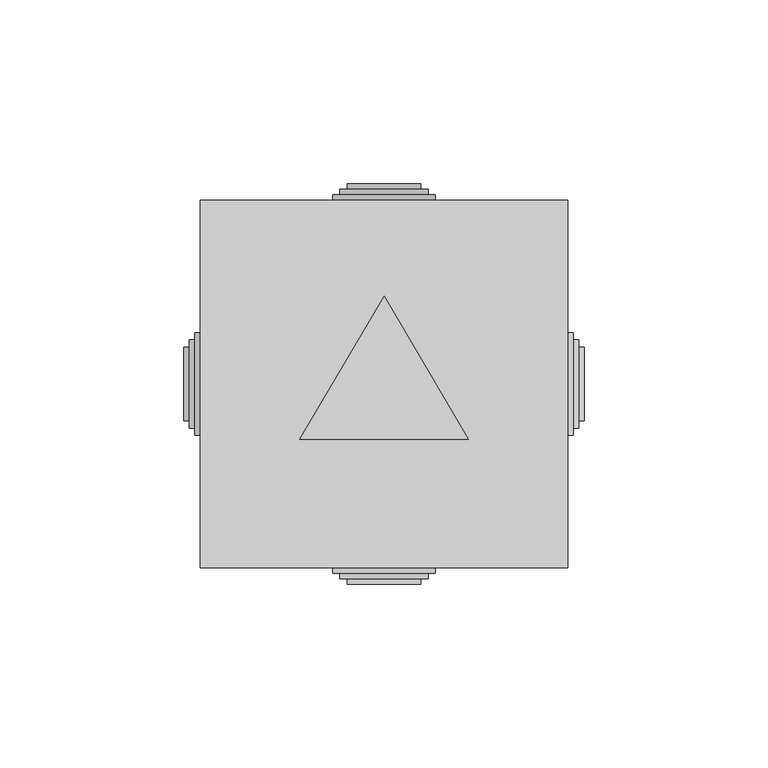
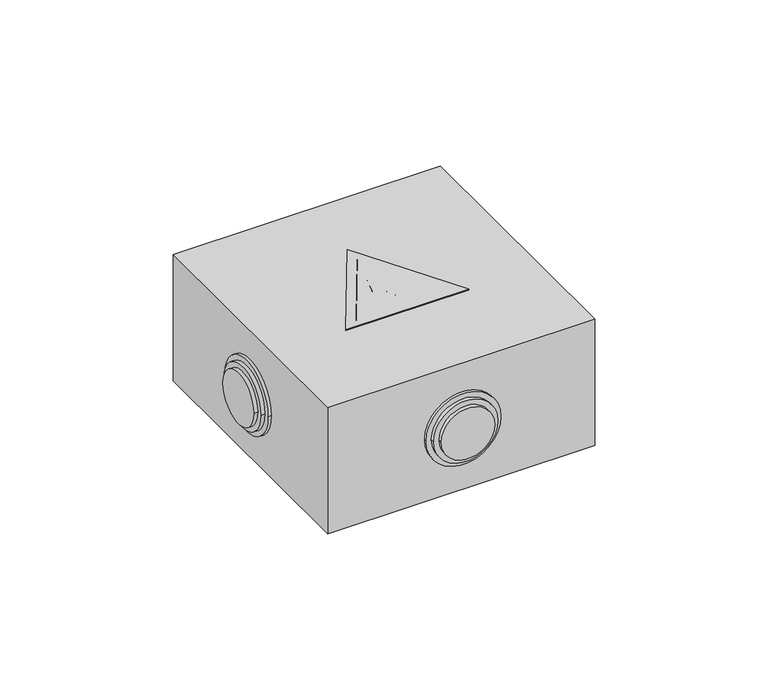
"""IFC4 building model written with IfcOpenShell, lengths in millimetres: proxy geometry, mS_EE_НГ_транзит : КО_IP44_ОУ_IEK_КМ41233_6Вв."""

import ifcopenshell
import ifcopenshell.guid

model = None  # the IFC model being written
_history = None  # IfcOwnerHistory: only IFC2X3 demands one
_inside = {}  # id of a spatial element -> (the spatial element, [elements in it])
_under = {}  # id of a project, library or spatial element -> (it, [spatial elements below it])
_declared = {}  # id of a project -> (the project, [libraries it declares])
_typed = {}  # id of a type object -> (the type object, [elements of that type])
_made_of = {}  # id of a material, layer set ... -> (it, [elements and type objects made of it])


def new_model(schema):
    """Start an empty IFC model of exactly this schema.

    Asked for "IFC4X3", IfcOpenShell would pick the latest addendum, in which some entities
    have other attributes; the version numbers below select the first issue.
    IFC2X3 requires an IfcOwnerHistory on every rooted entity: one is made here for all.
    """
    global model, _history
    if schema == "IFC4X3":
        model = ifcopenshell.file(schema_version=(4, 3, 0, 0))
    else:
        model = ifcopenshell.file(schema=schema)
    _inside.clear()
    _under.clear()
    _declared.clear()
    _typed.clear()
    _made_of.clear()
    _history = None
    if model.schema == "IFC2X3":
        org = make("IfcOrganization", Name="unknown")
        user = make(
            "IfcPersonAndOrganization",
            ThePerson=make("IfcPerson", FamilyName="unknown"),
            TheOrganization=org,
        )
        app = make(
            "IfcApplication",
            ApplicationDeveloper=org,
            Version="unknown",
            ApplicationFullName="unknown",
            ApplicationIdentifier="unknown",
        )
        _history = make(
            "IfcOwnerHistory",
            OwningUser=user,
            OwningApplication=app,
            ChangeAction="ADDED",
            CreationDate=0,
        )
    return model


def make(cls, **values):
    """One entity of the class cls with the attributes given. An attribute that is None is left unset."""
    return model.create_entity(
        cls, **{name: value for name, value in values.items() if value is not None}
    )


def rooted(cls, **values):
    """An entity with a GlobalId (a new one), such as an element, a storey or a relation."""
    return make(cls, GlobalId=ifcopenshell.guid.new(), OwnerHistory=_history, **values)


def si_unit(unit_type, name, prefix=None):
    """IfcSIUnit, for example si_unit("LENGTHUNIT", "METRE", prefix="MILLI")."""
    return make("IfcSIUnit", UnitType=unit_type, Prefix=prefix, Name=name)


def assignment(units):
    """IfcUnitAssignment: the units of a project."""
    return None if units is None else make("IfcUnitAssignment", Units=units)


def point(xyz):
    """IfcCartesianPoint."""
    return None if xyz is None else make("IfcCartesianPoint", Coordinates=xyz)


def direction(xyz):
    """IfcDirection."""
    return None if xyz is None else make("IfcDirection", DirectionRatios=xyz)


def frame(location, z_axis=None, x_axis=None):
    """IfcAxis2Placement3D, a coordinate frame: its origin and axes. An axis left out is left unset."""
    return make(
        "IfcAxis2Placement3D",
        Location=point(location),
        Axis=direction(z_axis),
        RefDirection=direction(x_axis),
    )


def frame_2d(location, x_axis=None):
    """IfcAxis2Placement2D, a coordinate frame in the plane: its origin and x axis."""
    return make(
        "IfcAxis2Placement2D", Location=point(location), RefDirection=direction(x_axis)
    )


def origin():
    """The frame at (0, 0, 0) with its axes left unset."""
    return frame((0.0, 0.0, 0.0))


def place(relative_to, where):
    """IfcLocalPlacement: puts the frame where relative to a parent placement (None: the world)."""
    return make(
        "IfcLocalPlacement", PlacementRelTo=relative_to, RelativePlacement=where
    )


def context(
    kind, dimensions, precision=None, world=None, true_north=None, identifier=None
):
    """IfcGeometricRepresentationContext, for example the 3D "Model" context."""
    return make(
        "IfcGeometricRepresentationContext",
        ContextIdentifier=identifier,
        ContextType=kind,
        CoordinateSpaceDimension=dimensions,
        Precision=precision,
        WorldCoordinateSystem=world,
        TrueNorth=true_north,
    )


def project(units=None, contexts=None):
    """IfcProject with its units and contexts."""
    return rooted(
        "IfcProject",
        Name="project",
        RepresentationContexts=contexts,
        UnitsInContext=assignment(units),
    )


def spatial(cls, under=None, at=None, **own):
    """A site, building, storey or space (cls), placed at a placement, below another one or the project."""
    s = rooted(cls, ObjectPlacement=at, **own)
    if under is not None:
        _under.setdefault(under.id(), (under, []))[1].append(s)
    return s


def polyline(points):
    """IfcPolyline through the points."""
    return make("IfcPolyline", Points=[point(p) for p in points])


def circle_curve(where, radius):
    """IfcCircle in the frame where."""
    return make("IfcCircle", Position=where, Radius=radius)


def trimmed(basis, trim1, trim2, sense, master):
    """IfcTrimmedCurve: the piece of a basis curve between two trims."""
    return make(
        "IfcTrimmedCurve",
        BasisCurve=basis,
        Trim1=trim1,
        Trim2=trim2,
        SenseAgreement=sense,
        MasterRepresentation=master,
    )


def segment(curve, same_sense, transition):
    """IfcCompositeCurveSegment."""
    return make(
        "IfcCompositeCurveSegment",
        Transition=transition,
        SameSense=same_sense,
        ParentCurve=curve,
    )


def composite_curve(segments, self_intersect=None):
    """IfcCompositeCurve: segments joined end to end."""
    return make("IfcCompositeCurve", Segments=segments, SelfIntersect=self_intersect)


def outline(outer, holes=None, kind="AREA"):
    """IfcArbitraryClosedProfileDef: a profile drawn as a closed curve; with holes, ...WithVoids."""
    if holes is None:
        return make("IfcArbitraryClosedProfileDef", ProfileType=kind, OuterCurve=outer)
    return make(
        "IfcArbitraryProfileDefWithVoids",
        ProfileType=kind,
        OuterCurve=outer,
        InnerCurves=holes,
    )


def extrude(swept, where, along, depth):
    """IfcExtrudedAreaSolid: the profile swept, set in the frame where, extruded along a direction by depth."""
    return make(
        "IfcExtrudedAreaSolid",
        SweptArea=swept,
        Position=where,
        ExtrudedDirection=direction(along),
        Depth=depth,
    )


def shape(context_of_items, identifier, shape_type, items):
    """IfcShapeRepresentation: the items that make up one representation, for example the "Body"."""
    return make(
        "IfcShapeRepresentation",
        ContextOfItems=context_of_items,
        RepresentationIdentifier=identifier,
        RepresentationType=shape_type,
        Items=items,
    )


def source(mapping_origin, context_of_items, identifier, shape_type, items):
    """IfcRepresentationMap: a shape defined once, which mapped items show again and again."""
    return make(
        "IfcRepresentationMap",
        MappingOrigin=mapping_origin,
        MappedRepresentation=shape(context_of_items, identifier, shape_type, items),
    )


def transform(
    local_origin,
    x_axis=None,
    y_axis=None,
    z_axis=None,
    scale=None,
    scale2=None,
    scale3=None,
    uniform=True,
):
    """IfcCartesianTransformationOperator3D, or its non-uniform kind. x_axis, y_axis, z_axis: its Axis1, 2, 3."""
    if uniform:
        return make(
            "IfcCartesianTransformationOperator3D",
            Axis1=direction(x_axis),
            Axis2=direction(y_axis),
            LocalOrigin=point(local_origin),
            Scale=scale,
            Axis3=direction(z_axis),
        )
    return make(
        "IfcCartesianTransformationOperator3DnonUniform",
        Axis1=direction(x_axis),
        Axis2=direction(y_axis),
        LocalOrigin=point(local_origin),
        Scale=scale,
        Axis3=direction(z_axis),
        Scale2=scale2,
        Scale3=scale3,
    )


def mapped(mapping_source, mapping_target):
    """IfcMappedItem: shows the shape of a source again, moved by a transform."""
    return make(
        "IfcMappedItem", MappingSource=mapping_source, MappingTarget=mapping_target
    )


def made_of(thing, what):
    """Note that an element or type object is made of a material, layer set ...; save() writes the relation."""
    if what is not None:
        _made_of.setdefault(what.id(), (what, []))[1].append(thing)
    return thing


def element(
    cls,
    number,
    at=None,
    inside=None,
    cuts=None,
    type_object=None,
    material=None,
    context=None,
    identifier="Body",
    shape_type=None,
    held_by="IfcProductDefinitionShape",
    body=None,
    shapes=None,
    **own,
):
    """One element of the class cls, such as IfcWall. Its Tag is "e" and its number.

    at: its placement. inside: the storey or other place that contains it. cuts: it is an
    opening in that element (IfcRelVoidsElement). A single representation is given by context,
    identifier, shape_type and body (its items); several are given by shapes. held_by: the class
    of the entity that holds the representations. save() writes the other relations.
    """
    e = rooted(cls, Tag="e%d" % number, ObjectPlacement=at, **own)
    if body is not None:
        shapes = [shape(context, identifier, shape_type, body)]
    if shapes is not None:
        e.Representation = make(held_by, Representations=shapes)
    if inside is not None:
        _inside.setdefault(inside.id(), (inside, []))[1].append(e)
    if cuts is not None:
        rooted(
            "IfcRelVoidsElement", RelatingBuildingElement=cuts, RelatedOpeningElement=e
        )
    if type_object is not None:
        _typed.setdefault(type_object.id(), (type_object, []))[1].append(e)
    return made_of(e, material)


def aggregate(whole, parts):
    """IfcRelAggregates: a whole, such as a stair, and the parts it consists of."""
    return rooted("IfcRelAggregates", RelatingObject=whole, RelatedObjects=parts)


def save(model, path):
    """Write the relations noted so far, then the file.

    IfcRelAggregates (storeys below a building ...), IfcRelContainedInSpatialStructure (elements
    in a storey), IfcRelDefinesByType, IfcRelAssociatesMaterial and IfcRelDeclares: one each for
    every whole, place, type object, material and project.
    """
    for whole, parts in _under.values():
        aggregate(whole, parts)
    for where, things in _inside.values():
        rooted(
            "IfcRelContainedInSpatialStructure",
            RelatedElements=things,
            RelatingStructure=where,
        )
    for kind, things in _typed.values():
        rooted("IfcRelDefinesByType", RelatedObjects=things, RelatingType=kind)
    for what, things in _made_of.values():
        rooted("IfcRelAssociatesMaterial", RelatedObjects=things, RelatingMaterial=what)
    for by, libraries in _declared.values():
        rooted("IfcRelDeclares", RelatingContext=by, RelatedDefinitions=libraries)
    model.write(path)


def electrical_equipment_c6ea6501(model_context):
    return source(origin(), model_context, "Body", "SweptSolid", [
        extrude(outline(polyline([(22.9265636, 14.989949), (-0.0285229, -23.8986682), (-22.9836095, 14.989949), (22.9265636, 14.989949)])), frame((0.0, 0.0, -50.2), z_axis=(0.0, 0.0, 1.0), x_axis=(1.0, 0.0, 0.0)), (0.0, 0.0, 1.0), 0.4),
        extrude(outline(polyline([(1.8044962, -10.5250696), (-1.4955038, -10.5250696), (2.2791111, -1.8071408), (-2.9170414, -4.8071408), (-0.0182681, 6.0112285), (-1.4276319, 5.0606005), (1.4242519, 9.2886922), (2.2577631, 4.5616149), (1.2293029, 5.7872861), (0.2337885, -1.7674533), (4.9514137, 0.8475691), (1.8044962, -10.5250696)])), frame((0.0, 0.0, -50.4), z_axis=(0.0, 0.0, 1.0), x_axis=(1.0, 0.0, 0.0)), (0.0, 0.0, 1.0), 0.8),
        extrude(outline(polyline([(-21.2035905, 13.989949), (21.2035905, 13.989949), (0.0, -21.9314278), (-21.2035905, 13.989949)]), holes=[polyline([(0.0, -17.210051), (17.0, 11.589949), (-17.0, 11.589949), (0.0, -17.210051)])]), frame((0.0, 0.0, -50.4), z_axis=(0.0, 0.0, 1.0), x_axis=(1.0, 0.0, 0.0)), (0.0, 0.0, 1.0), 0.8),
        extrude(outline(polyline([(-22.9265636, -14.989949), (0.0285229, 23.8986682), (22.9836095, -14.989949), (-22.9265636, -14.989949)])), frame((0.0, 0.0, -0.2), z_axis=(0.0, 0.0, 1.0), x_axis=(1.0, 0.0, 0.0)), (0.0, 0.0, 1.0), 0.4),
        extrude(outline(polyline([(-1.8044962, 10.5250696), (1.4955038, 10.5250696), (-2.2791111, 1.8071408), (2.9170414, 4.8071408), (0.0182681, -6.0112285), (1.4276319, -5.0606005), (-1.4242519, -9.2886922), (-2.2577631, -4.5616149), (-1.2293029, -5.7872861), (-0.2337885, 1.7674533), (-4.9514137, -0.8475691), (-1.8044962, 10.5250696)])), frame((0.0, 0.0, -0.4), z_axis=(0.0, 0.0, 1.0), x_axis=(1.0, 0.0, 0.0)), (0.0, 0.0, 1.0), 0.8),
        extrude(outline(polyline([(21.2035905, -13.989949), (-21.2035905, -13.989949), (0.0, 21.9314278), (21.2035905, -13.989949)]), holes=[polyline([(0.0, 17.210051), (-17.0, -11.589949), (17.0, -11.589949), (0.0, 17.210051)])]), frame((0.0, 0.0, -0.4), z_axis=(0.0, 0.0, 1.0), x_axis=(1.0, 0.0, 0.0)), (0.0, 0.0, 1.0), 0.8),
        extrude(outline(polyline([(50.0, 50.0), (50.0, -50.0), (-50.0, -50.0), (-50.0, 50.0), (50.0, 50.0)])), frame((0.0, 0.0, -50.0), z_axis=(0.0, 0.0, 1.0), x_axis=(1.0, 0.0, 0.0)), (0.0, 0.0, 1.0), 50.0),
        extrude(outline(composite_curve([segment(trimmed(circle_curve(frame_2d((-25.0, 0.0)), 10.0), [point((-25.0, 10.0))], [point((-25.0, -10.0))], False, "CARTESIAN"), True, "CONTINUOUS"), segment(trimmed(circle_curve(frame_2d((-25.0, 0.0)), 10.0), [point((-25.0, -10.0))], [point((-25.0, 10.0))], False, "CARTESIAN"), True, "CONTINUOUS")], self_intersect=False)), frame((0.0, -54.5, 0.0), z_axis=(0.0, 1.0, 0.0), x_axis=(0.0, 0.0, 1.0)), (0.0, 0.0, 1.0), 1.5),
        extrude(outline(composite_curve([segment(trimmed(circle_curve(frame_2d((-25.0, 0.0)), 12.0), [point((-25.0, 12.0))], [point((-25.0, -12.0))], False, "CARTESIAN"), True, "CONTINUOUS"), segment(trimmed(circle_curve(frame_2d((-25.0, 0.0)), 12.0), [point((-25.0, -12.0))], [point((-25.0, 12.0))], False, "CARTESIAN"), True, "CONTINUOUS")], self_intersect=False)), frame((0.0, -53.0, 0.0), z_axis=(0.0, 1.0, 0.0), x_axis=(0.0, 0.0, 1.0)), (0.0, 0.0, 1.0), 1.5),
        extrude(outline(composite_curve([segment(trimmed(circle_curve(frame_2d((-25.0, 0.0)), 14.0), [point((-25.0, 14.0))], [point((-25.0, -14.0))], False, "CARTESIAN"), True, "CONTINUOUS"), segment(trimmed(circle_curve(frame_2d((-25.0, 0.0)), 14.0), [point((-25.0, -14.0))], [point((-25.0, 14.0))], False, "CARTESIAN"), True, "CONTINUOUS")], self_intersect=False)), frame((0.0, -51.5, 0.0), z_axis=(0.0, 1.0, 0.0), x_axis=(0.0, 0.0, 1.0)), (0.0, 0.0, 1.0), 1.5),
        extrude(outline(composite_curve([segment(trimmed(circle_curve(frame_2d((0.0, -25.0)), 10.0), [point((-10.0, -25.0))], [point((10.0, -25.0))], False, "CARTESIAN"), True, "CONTINUOUS"), segment(trimmed(circle_curve(frame_2d((0.0, -25.0)), 10.0), [point((10.0, -25.0))], [point((-10.0, -25.0))], False, "CARTESIAN"), True, "CONTINUOUS")], self_intersect=False)), frame((-54.5, 0.0, 0.0), z_axis=(1.0, 0.0, 0.0), x_axis=(0.0, 1.0, 0.0)), (0.0, 0.0, 1.0), 1.5),
        extrude(outline(composite_curve([segment(trimmed(circle_curve(frame_2d((0.0, -25.0)), 12.0), [point((-12.0, -25.0))], [point((12.0, -25.0))], False, "CARTESIAN"), True, "CONTINUOUS"), segment(trimmed(circle_curve(frame_2d((0.0, -25.0)), 12.0), [point((12.0, -25.0))], [point((-12.0, -25.0))], False, "CARTESIAN"), True, "CONTINUOUS")], self_intersect=False)), frame((-53.0, 0.0, 0.0), z_axis=(1.0, 0.0, 0.0), x_axis=(0.0, 1.0, 0.0)), (0.0, 0.0, 1.0), 1.5),
        extrude(outline(composite_curve([segment(trimmed(circle_curve(frame_2d((0.0, -25.0)), 14.0), [point((-14.0, -25.0))], [point((14.0, -25.0))], False, "CARTESIAN"), True, "CONTINUOUS"), segment(trimmed(circle_curve(frame_2d((0.0, -25.0)), 14.0), [point((14.0, -25.0))], [point((-14.0, -25.0))], False, "CARTESIAN"), True, "CONTINUOUS")], self_intersect=False)), frame((-51.5, 0.0, 0.0), z_axis=(1.0, 0.0, 0.0), x_axis=(0.0, 1.0, 0.0)), (0.0, 0.0, 1.0), 1.5),
        extrude(outline(composite_curve([segment(trimmed(circle_curve(frame_2d((-25.0, 0.0)), 10.0), [point((-25.0, -10.0))], [point((-25.0, 10.0))], False, "CARTESIAN"), True, "CONTINUOUS"), segment(trimmed(circle_curve(frame_2d((-25.0, 0.0)), 10.0), [point((-25.0, 10.0))], [point((-25.0, -10.0))], False, "CARTESIAN"), True, "CONTINUOUS")], self_intersect=False)), frame((0.0, 53.0, 0.0), z_axis=(0.0, 1.0, 0.0), x_axis=(0.0, 0.0, 1.0)), (0.0, 0.0, 1.0), 1.5),
        extrude(outline(composite_curve([segment(trimmed(circle_curve(frame_2d((-25.0, 0.0)), 12.0), [point((-25.0, -12.0))], [point((-25.0, 12.0))], False, "CARTESIAN"), True, "CONTINUOUS"), segment(trimmed(circle_curve(frame_2d((-25.0, 0.0)), 12.0), [point((-25.0, 12.0))], [point((-25.0, -12.0))], False, "CARTESIAN"), True, "CONTINUOUS")], self_intersect=False)), frame((0.0, 51.5, 0.0), z_axis=(0.0, 1.0, 0.0), x_axis=(0.0, 0.0, 1.0)), (0.0, 0.0, 1.0), 1.5),
        extrude(outline(composite_curve([segment(trimmed(circle_curve(frame_2d((-25.0, 0.0)), 14.0), [point((-25.0, -14.0))], [point((-25.0, 14.0))], False, "CARTESIAN"), True, "CONTINUOUS"), segment(trimmed(circle_curve(frame_2d((-25.0, 0.0)), 14.0), [point((-25.0, 14.0))], [point((-25.0, -14.0))], False, "CARTESIAN"), True, "CONTINUOUS")], self_intersect=False)), frame((0.0, 50.0, 0.0), z_axis=(0.0, 1.0, 0.0), x_axis=(0.0, 0.0, 1.0)), (0.0, 0.0, 1.0), 1.5),
        extrude(outline(composite_curve([segment(trimmed(circle_curve(frame_2d((0.0, -25.0)), 10.0), [point((10.0, -25.0))], [point((-10.0, -25.0))], False, "CARTESIAN"), True, "CONTINUOUS"), segment(trimmed(circle_curve(frame_2d((0.0, -25.0)), 10.0), [point((-10.0, -25.0))], [point((10.0, -25.0))], False, "CARTESIAN"), True, "CONTINUOUS")], self_intersect=False)), frame((53.0, 0.0, 0.0), z_axis=(1.0, 0.0, 0.0), x_axis=(0.0, 1.0, 0.0)), (0.0, 0.0, 1.0), 1.5),
        extrude(outline(composite_curve([segment(trimmed(circle_curve(frame_2d((0.0, -25.0)), 12.0), [point((12.0, -25.0))], [point((-12.0, -25.0))], False, "CARTESIAN"), True, "CONTINUOUS"), segment(trimmed(circle_curve(frame_2d((0.0, -25.0)), 12.0), [point((-12.0, -25.0))], [point((12.0, -25.0))], False, "CARTESIAN"), True, "CONTINUOUS")], self_intersect=False)), frame((51.5, 0.0, 0.0), z_axis=(1.0, 0.0, 0.0), x_axis=(0.0, 1.0, 0.0)), (0.0, 0.0, 1.0), 1.5),
        extrude(outline(composite_curve([segment(trimmed(circle_curve(frame_2d((0.0, -25.0)), 14.0), [point((14.0, -25.0))], [point((-14.0, -25.0))], False, "CARTESIAN"), True, "CONTINUOUS"), segment(trimmed(circle_curve(frame_2d((0.0, -25.0)), 14.0), [point((-14.0, -25.0))], [point((14.0, -25.0))], False, "CARTESIAN"), True, "CONTINUOUS")], self_intersect=False)), frame((50.0, 0.0, 0.0), z_axis=(1.0, 0.0, 0.0), x_axis=(0.0, 1.0, 0.0)), (0.0, 0.0, 1.0), 1.5),
    ])


if __name__ == "__main__":
    model = new_model("IFC4")
    model_context = context("Model", 3, world=origin())
    ifc_project = project(units=[si_unit("LENGTHUNIT", "METRE", prefix="MILLI")], contexts=[model_context])
    site = spatial("IfcSite", under=ifc_project)
    building = spatial("IfcBuilding", under=site)
    placement = place(None, origin())
    electrical_equipment_shape = electrical_equipment_c6ea6501(model_context)
    element("IfcBuildingElementProxy", 1, Name="mS_EE_НГ_транзит : КО_IP44_ОУ_IEK_КМ41233_6Вв", ObjectType="mS_EE_НГ_транзит : КО_IP44_ОУ_IEK_КМ41233_6Вв", at=placement, inside=building, context=model_context, shape_type="MappedRepresentation", body=[
        mapped(electrical_equipment_shape, transform((0.0, 0.0, 0.0), x_axis=(1.0, 0.0, 0.0), y_axis=(0.0, 1.0, 0.0), z_axis=(0.0, 0.0, 1.0))),
    ])
    save(model, "model.ifc")
